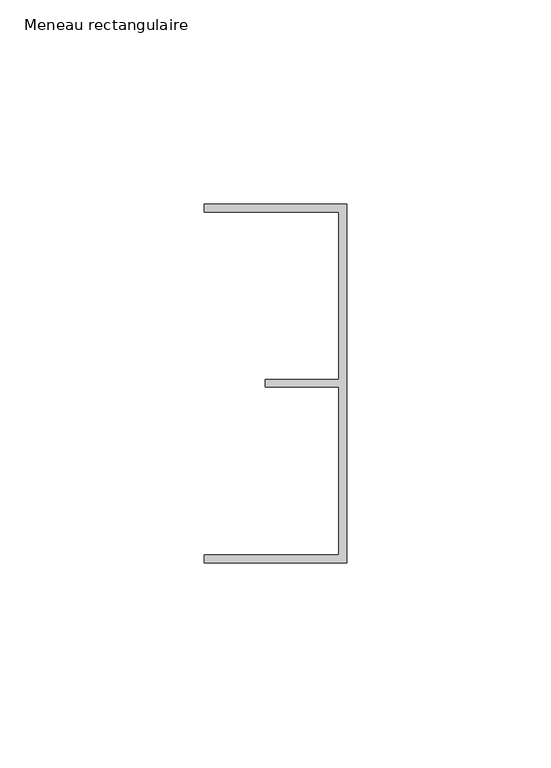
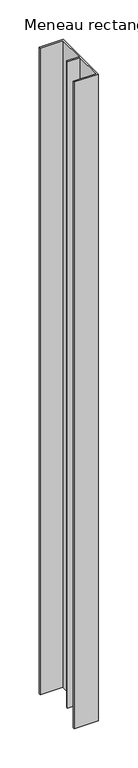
"""IFC4 building model written with IfcOpenShell, lengths in millimetres: member geometry, Meneau rectangulaire : LISSERIE_PLAFOND_COIFFANTE 94-KLP00-P80-SD20ALU."""

from ifc_helpers import new_model, si_unit, frame, origin, place, context, project, spatial, polyline, outline, extrude, source, transform, mapped, element, save


def meneau_rectangulaire_2d9f5674(model_context):
    return source(origin(), model_context, "Body", "SweptSolid", [
        extrude(outline(polyline([(0.0, 44.0), (0.0, -44.0), (-35.0, -44.0), (-35.0, -42.0), (-2.0, -42.0), (-2.0, -0.9316478), (-20.0, -0.9316478), (-20.0, 0.9316478), (-2.0, 0.9316478), (-2.0, 42.0), (-35.0, 42.0), (-35.0, 44.0), (0.0, 44.0)])), frame((0.0, 0.0, -999.6), z_axis=(0.0, 0.0, 1.0), x_axis=(1.0, 0.0, 0.0)), (0.0, 0.0, 1.0), 999.6),
    ])


if __name__ == "__main__":
    model = new_model("IFC4")
    model_context = context("Model", 3, world=origin())
    ifc_project = project(units=[si_unit("LENGTHUNIT", "METRE", prefix="MILLI")], contexts=[model_context])
    site = spatial("IfcSite", under=ifc_project)
    building = spatial("IfcBuilding", under=site)
    placement = place(None, origin())
    meneau_rectangulaire_shape = meneau_rectangulaire_2d9f5674(model_context)
    element("IfcMember", 1, ObjectType="Meneau rectangulaire : LISSERIE_PLAFOND_COIFFANTE 94-KLP00-P80-SD20ALU", at=placement, inside=building, context=model_context, shape_type="MappedRepresentation", body=[
        mapped(meneau_rectangulaire_shape, transform((0.0, 0.0, 0.0), x_axis=(1.0, 0.0, 0.0), y_axis=(0.0, 1.0, 0.0), z_axis=(0.0, 0.0, 1.0))),
    ])
    save(model, "model.ifc")
